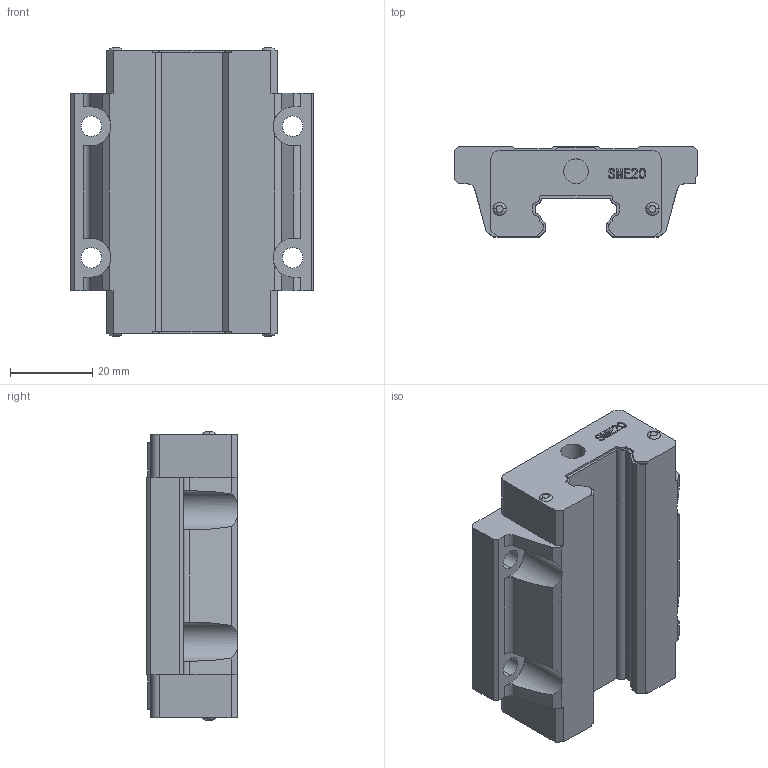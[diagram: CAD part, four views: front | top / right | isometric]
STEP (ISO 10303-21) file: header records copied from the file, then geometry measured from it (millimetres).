
FILE_DESCRIPTION (( 'STEP AP203' ), '1' );
FILE_NAME ('SME20A.stp', '2019-09-20T03:44:06', ( 'pgos' ), ( '' ), 'SwSTEP 2.0', 'SolidWorks 2014', '' );
FILE_SCHEMA (( 'CONFIG_CONTROL_DESIGN' ));
Length unit declared in the file: millimetre
Products named in the file (1): SME20A
Bounding box: 59 x 22 x 70.1 mm (x, y, z)
Volume: 58480.5 mm3; surface area: 14609 mm2
Topology: 1 solids, 1 shells, 261 faces, 731 edges, 486 vertices
Faces by surface type: plane 148, cylinder 74, bspline 23, cone 8, torus 8
Entity records: 10449 total; most frequent: CARTESIAN_POINT 3693, ORIENTED_EDGE 1462, DIRECTION 1297, EDGE_CURVE 731, VERTEX_POINT 486, VECTOR 479, LINE 479, AXIS2_PLACEMENT_3D 409
